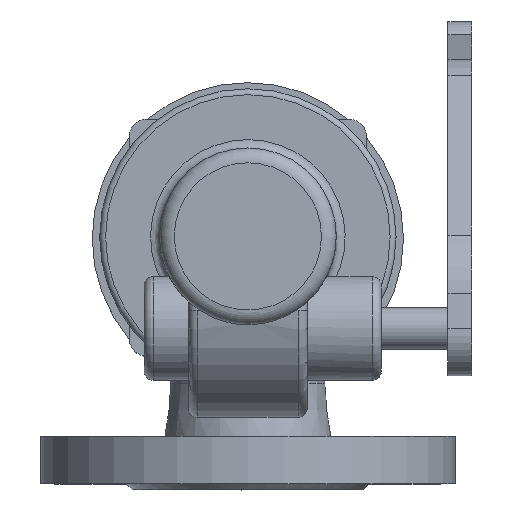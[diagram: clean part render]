
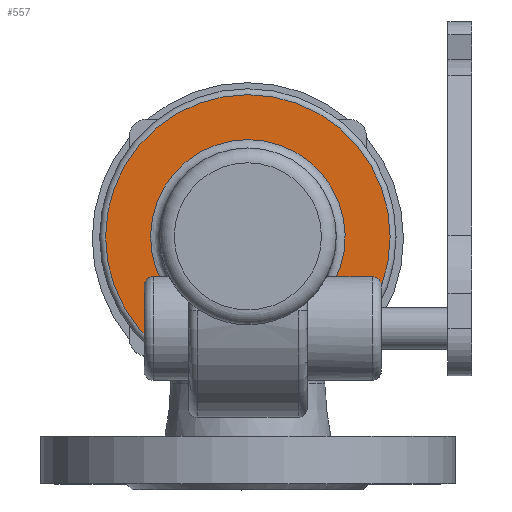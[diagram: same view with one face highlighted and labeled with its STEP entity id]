
A CAD part, top view. The second image highlights one B-rep face of the part: STEP entity #557.
In plain terms, the highlighted planar face has unit normal (0, 0, 1).
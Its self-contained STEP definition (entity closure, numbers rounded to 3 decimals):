
#557=ADVANCED_FACE('',(#1664,#1666),#1668,.T.);
#1664=FACE_BOUND('',#1665,.T.);
#1665=EDGE_LOOP('',(#2542,#2543));
#1666=FACE_BOUND('',#1667,.T.);
#1667=EDGE_LOOP('',(#2544,#2545,#2546,#2547));
#1668=PLANE('',#1669);
#1669=AXIS2_PLACEMENT_3D('',#1670,#1671,#1672);
#1670=CARTESIAN_POINT('',(0.,0.,276.));
#1671=DIRECTION('',(0.,0.,1.));
#1672=DIRECTION('',(0.,-1.,0.));
#2542=ORIENTED_EDGE('',*,*,#3048,.T.);
#2543=ORIENTED_EDGE('',*,*,#3049,.T.);
#2544=ORIENTED_EDGE('',*,*,#3065,.F.);
#2545=ORIENTED_EDGE('',*,*,#3066,.F.);
#2546=ORIENTED_EDGE('',*,*,#3067,.F.);
#2547=ORIENTED_EDGE('',*,*,#3068,.F.);
#3048=EDGE_CURVE('',#3479,#3480,#3481,.T.);
#3049=EDGE_CURVE('',#3480,#3479,#3482,.T.);
#3065=EDGE_CURVE('',#3513,#3514,#3515,.T.);
#3066=EDGE_CURVE('',#3516,#3513,#3517,.F.);
#3067=EDGE_CURVE('',#3518,#3516,#3519,.T.);
#3068=EDGE_CURVE('',#3514,#3518,#3520,.T.);
#3479=VERTEX_POINT('',#5105);
#3480=VERTEX_POINT('',#5106);
#3481=CIRCLE('',#5107,48.);
#3482=CIRCLE('',#5111,48.);
#3513=VERTEX_POINT('',#5188);
#3514=VERTEX_POINT('',#5189);
#3515=LINE('',#5190,#5191);
#3516=VERTEX_POINT('',#5193);
#3517=LINE('',#5194,#5195);
#3518=VERTEX_POINT('',#5197);
#3519=CIRCLE('',#5198,32.827);
#3520=LINE('',#5202,#5203);
#5105=CARTESIAN_POINT('',(0.,-48.,276.));
#5106=CARTESIAN_POINT('',(0.,48.,276.));
#5107=AXIS2_PLACEMENT_3D('',#5108,#5109,#5110);
#5108=CARTESIAN_POINT('',(0.,0.,276.));
#5109=DIRECTION('',(0.,0.,1.));
#5110=DIRECTION('',(0.,-1.,0.));
#5111=AXIS2_PLACEMENT_3D('',#5112,#5113,#5114);
#5112=CARTESIAN_POINT('',(0.,0.,276.));
#5113=DIRECTION('',(0.,0.,1.));
#5114=DIRECTION('',(0.,1.,0.));
#5188=CARTESIAN_POINT('',(-7.,-40.015,276.));
#5189=CARTESIAN_POINT('',(7.,-40.015,276.));
#5190=CARTESIAN_POINT('',(-7.,-40.015,276.));
#5191=VECTOR('',#5192,1.);
#5192=DIRECTION('',(1.,0.,0.));
#5193=CARTESIAN_POINT('',(-7.,-32.072,276.));
#5194=CARTESIAN_POINT('',(-7.,-40.015,276.));
#5195=VECTOR('',#5196,1.);
#5196=DIRECTION('',(0.,1.,0.));
#5197=CARTESIAN_POINT('',(7.,-32.072,276.));
#5198=AXIS2_PLACEMENT_3D('',#5199,#5200,#5201);
#5199=CARTESIAN_POINT('',(0.,0.,276.));
#5200=DIRECTION('',(0.,0.,1.));
#5201=DIRECTION('',(0.213,-0.977,0.));
#5202=CARTESIAN_POINT('',(7.,-40.015,276.));
#5203=VECTOR('',#5204,1.);
#5204=DIRECTION('',(0.,1.,0.));
